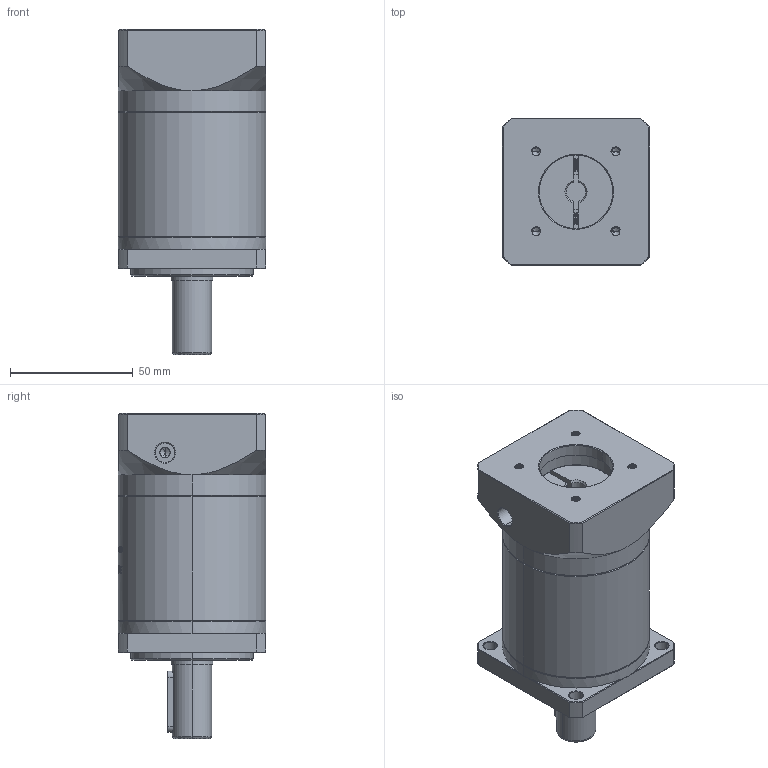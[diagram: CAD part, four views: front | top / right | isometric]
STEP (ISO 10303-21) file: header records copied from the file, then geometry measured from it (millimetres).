
FILE_DESCRIPTION (( 'STEP AP214' ), '1' );
FILE_NAME ('ZF060-D16-L2-P2-8-30-46-M4.step', '2023-08-16T04:27:53', ( '' ), ( '' ), 'SwSTEP 2.0', 'SolidWorks 2016', '' );
FILE_SCHEMA (( 'AUTOMOTIVE_DESIGN' ));
Length unit declared in the file: millimetre
Products named in the file (1): ZF060-D16-L2-P2-8-30-46-M4
Bounding box: 60 x 60 x 132.5 mm (x, y, z)
Volume: 279402.4 mm3; surface area: 47967.8 mm2
Topology: 6 solids, 6 shells, 1727 faces, 4678 edges, 3034 vertices
Faces by surface type: plane 794, bspline 354, cylinder 332, cone 229, torus 18
Entity records: 95971 total; most frequent: CARTESIAN_POINT 37662, ORIENTED_EDGE 9328, DIRECTION 6671, EDGE_CURVE 4664, VERTEX_POINT 3034, VECTOR 2367, LINE 2367, AXIS2_PLACEMENT_3D 2152
